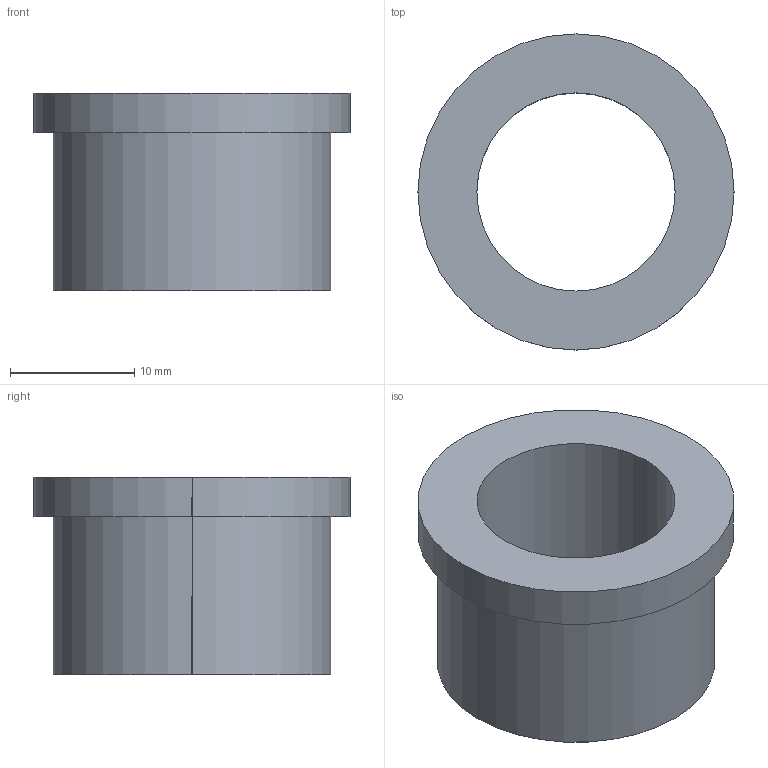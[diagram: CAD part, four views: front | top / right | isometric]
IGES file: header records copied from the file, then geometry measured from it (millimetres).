
Global section: file name: C:\Documents and Settings\Administrator\Desktop\Transfer Temp\bushing-fbb-10-10.igs; native system: AutoDesk Inventor R2.0 ; preprocessor: AutoDesk Inventor Iges Exporter R2.0; author: No Author specified; organization: No Organization specified; date: 20011227.203247; units: inch
Bounding box: 25.4 x 25.4 x 15.88 mm (x, y, z)
Surface area: 2551.4 mm2 (no closed solid volume)
Topology: 0 solids, 0 shells, 9 faces, 36 edges, 36 vertices
Faces by surface type: revolution 6, bspline 3
